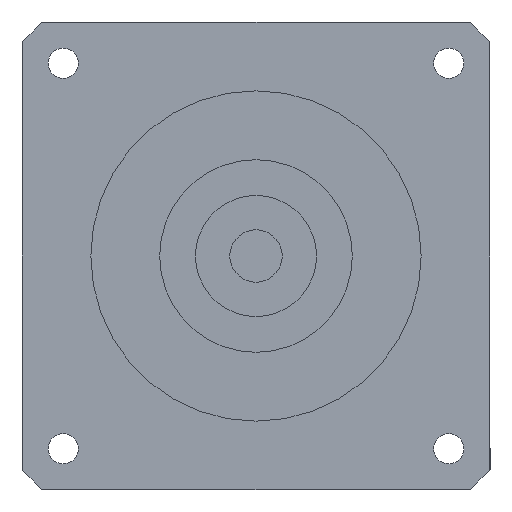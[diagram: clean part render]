
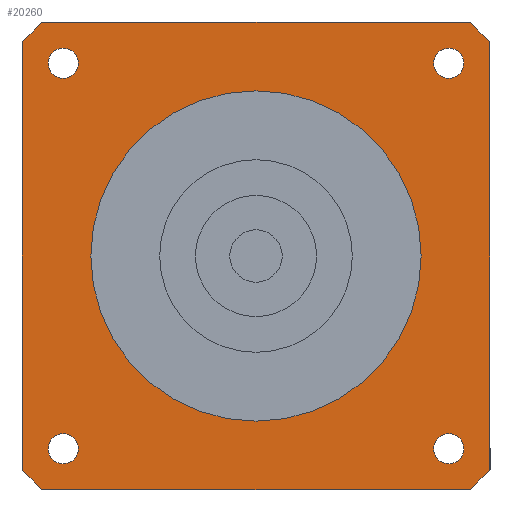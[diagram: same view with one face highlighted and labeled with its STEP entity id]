
A CAD part, left-side view. The second image highlights one B-rep face of the part: STEP entity #20260.
In plain terms, the highlighted planar face has unit normal (-1, 0, 0) as drawn and (0, 0, -1) by its records, which use the part's own axes.
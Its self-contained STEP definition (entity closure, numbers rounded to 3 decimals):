
#11110=CARTESIAN_POINT('',(-42.5,-38.73,-59.));
#11120=VERTEX_POINT('',#11110);
#11280=CARTESIAN_POINT('',(-38.73,-42.5,-59.));
#11290=VERTEX_POINT('',#11280);
#11320=CARTESIAN_POINT('',(0.,0.,
-59.));
#11330=DIRECTION('',(0.,0.,1.));
#11340=DIRECTION('',(0.,-1.,0.));
#11350=AXIS2_PLACEMENT_3D('',#11320,#11330,#11340);
#11360=CIRCLE('',#11350,57.5);
#11370=EDGE_CURVE('',#11120,#11290,#11360,.T.);
#12870=CARTESIAN_POINT('',(-42.5,38.73,-59.));
#12880=VERTEX_POINT('',#12870);
#12980=CARTESIAN_POINT('',(-42.5,42.5,-59.));
#12990=DIRECTION('',(0.,-1.,0.));
#13000=VECTOR('',#12990,1000.);
#13010=LINE('',#12980,#13000);
#13020=EDGE_CURVE('',#12880,#11120,#13010,.T.);
#17850=CARTESIAN_POINT('',(-38.73,42.5,-59.));
#17860=VERTEX_POINT('',#17850);
#17910=CARTESIAN_POINT('',(0.,0.,
-59.));
#17920=DIRECTION('',(0.,0.,1.));
#17930=DIRECTION('',(0.,-1.,0.));
#17940=AXIS2_PLACEMENT_3D('',#17910,#17920,#17930);
#17950=CIRCLE('',#17940,57.5);
#17960=EDGE_CURVE('',#17860,#12880,#17950,.T.);
#18100=CARTESIAN_POINT('',(38.73,42.5,-59.));
#18110=VERTEX_POINT('',#18100);
#18160=CARTESIAN_POINT('',(42.5,42.5,-59.));
#18170=DIRECTION('',(-1.,0.,0.));
#18180=VECTOR('',#18170,1000.);
#18190=LINE('',#18160,#18180);
#18200=EDGE_CURVE('',#18110,#17860,#18190,.T.);
#18310=CARTESIAN_POINT('',(0.,0.,
-59.));
#18320=DIRECTION('',(0.,0.,1.));
#18330=DIRECTION('',(0.,-1.,0.));
#18340=AXIS2_PLACEMENT_3D('',#18310,#18320,#18330);
#18350=CIRCLE('',#18340,57.5);
#18360=CARTESIAN_POINT('',(42.5,38.73,-59.));
#18370=VERTEX_POINT('',#18360);
#18380=EDGE_CURVE('',#18370,#18110,#18350,.T.);
#18590=CARTESIAN_POINT('',(42.5,-38.73,-59.));
#18600=VERTEX_POINT('',#18590);
#18650=CARTESIAN_POINT('',(42.5,-42.5,-59.));
#18660=DIRECTION('',(0.,1.,0.));
#18670=VECTOR('',#18660,1000.);
#18680=LINE('',#18650,#18670);
#18690=EDGE_CURVE('',#18600,#18370,#18680,.T.);
#18830=CARTESIAN_POINT('',(38.73,-42.5,-59.));
#18840=VERTEX_POINT('',#18830);
#18890=CARTESIAN_POINT('',(0.,0.,
-59.));
#18900=DIRECTION('',(0.,0.,1.));
#18910=DIRECTION('',(0.,-1.,0.));
#18920=AXIS2_PLACEMENT_3D('',#18890,#18900,#18910);
#18930=CIRCLE('',#18920,57.5);
#18940=EDGE_CURVE('',#18840,#18600,#18930,.T.);
#19070=CARTESIAN_POINT('',(-42.5,-42.5,-59.));
#19080=DIRECTION('',(1.,0.,0.));
#19090=VECTOR('',#19080,1000.);
#19100=LINE('',#19070,#19090);
#19110=EDGE_CURVE('',#11290,#18840,#19100,.T.);
#19160=CARTESIAN_POINT('',(-42.5,42.5,-59.));
#19170=DIRECTION('',(0.,0.,1.));
#19180=DIRECTION('',(-1.,0.,0.));
#19190=AXIS2_PLACEMENT_3D('',#19160,#19170,#19180);
#19200=PLANE('',#19190);
#19210=CARTESIAN_POINT('',(35.002,-35.002,-59.));
#19220=DIRECTION('',(0.,0.,-1.));
#19230=DIRECTION('',(1.,0.,0.));
#19240=AXIS2_PLACEMENT_3D('',#19210,#19220,#19230);
#19250=CIRCLE('',#19240,2.75);
#19260=CARTESIAN_POINT('',(37.752,-35.002,-59.));
#19270=VERTEX_POINT('',#19260);
#19280=CARTESIAN_POINT('',(35.002,-37.752,-59.));
#19290=VERTEX_POINT('',#19280);
#19300=EDGE_CURVE('',#19270,#19290,#19250,.T.);
#19310=ORIENTED_EDGE('',*,*,#19300,.F.);
#19320=CARTESIAN_POINT('',(35.002,-32.252,-59.));
#19330=VERTEX_POINT('',#19320);
#19340=EDGE_CURVE('',#19290,#19330,#19250,.T.);
#19350=ORIENTED_EDGE('',*,*,#19340,.F.);
#19360=EDGE_CURVE('',#19330,#19270,#19250,.T.);
#19370=ORIENTED_EDGE('',*,*,#19360,.F.);
#19380=EDGE_LOOP('',(#19370,#19350,#19310));
#19390=FACE_BOUND('',#19380,.T.);
#19400=CARTESIAN_POINT('',(35.002,35.002,-59.));
#19410=DIRECTION('',(0.,0.,-1.));
#19420=DIRECTION('',(0.,1.,0.));
#19430=AXIS2_PLACEMENT_3D('',#19400,#19410,#19420);
#19440=CIRCLE('',#19430,2.75);
#19450=CARTESIAN_POINT('',(35.002,37.752,-59.));
#19460=VERTEX_POINT('',#19450);
#19470=CARTESIAN_POINT('',(37.752,35.002,-59.));
#19480=VERTEX_POINT('',#19470);
#19490=EDGE_CURVE('',#19460,#19480,#19440,.T.);
#19500=ORIENTED_EDGE('',*,*,#19490,.F.);
#19510=CARTESIAN_POINT('',(32.252,35.002,-59.));
#19520=VERTEX_POINT('',#19510);
#19530=EDGE_CURVE('',#19480,#19520,#19440,.T.);
#19540=ORIENTED_EDGE('',*,*,#19530,.F.);
#19550=EDGE_CURVE('',#19520,#19460,#19440,.T.);
#19560=ORIENTED_EDGE('',*,*,#19550,.F.);
#19570=EDGE_LOOP('',(#19560,#19540,#19500));
#19580=FACE_BOUND('',#19570,.T.);
#19590=CARTESIAN_POINT('',(-35.002,35.002,-59.));
#19600=DIRECTION('',(0.,0.,-1.));
#19610=DIRECTION('',(-1.,0.,0.));
#19620=AXIS2_PLACEMENT_3D('',#19590,#19600,#19610);
#19630=CIRCLE('',#19620,2.75);
#19640=CARTESIAN_POINT('',(-37.752,35.002,-59.));
#19650=VERTEX_POINT('',#19640);
#19660=CARTESIAN_POINT('',(-35.002,37.752,-59.));
#19670=VERTEX_POINT('',#19660);
#19680=EDGE_CURVE('',#19650,#19670,#19630,.T.);
#19690=ORIENTED_EDGE('',*,*,#19680,.F.);
#19700=CARTESIAN_POINT('',(-35.002,32.252,-59.));
#19710=VERTEX_POINT('',#19700);
#19720=EDGE_CURVE('',#19670,#19710,#19630,.T.);
#19730=ORIENTED_EDGE('',*,*,#19720,.F.);
#19740=EDGE_CURVE('',#19710,#19650,#19630,.T.);
#19750=ORIENTED_EDGE('',*,*,#19740,.F.);
#19760=EDGE_LOOP('',(#19750,#19730,#19690));
#19770=FACE_BOUND('',#19760,.T.);
#19780=CARTESIAN_POINT('',(-35.002,-35.002,-59.));
#19790=DIRECTION('',(0.,0.,-1.));
#19800=DIRECTION('',(0.,-1.,0.));
#19810=AXIS2_PLACEMENT_3D('',#19780,#19790,#19800);
#19820=CIRCLE('',#19810,2.75);
#19830=CARTESIAN_POINT('',(-35.002,-37.752,-59.));
#19840=VERTEX_POINT('',#19830);
#19850=CARTESIAN_POINT('',(-37.752,-35.002,-59.));
#19860=VERTEX_POINT('',#19850);
#19870=EDGE_CURVE('',#19840,#19860,#19820,.T.);
#19880=ORIENTED_EDGE('',*,*,#19870,.F.);
#19890=CARTESIAN_POINT('',(-32.252,-35.002,-59.));
#19900=VERTEX_POINT('',#19890);
#19910=EDGE_CURVE('',#19860,#19900,#19820,.T.);
#19920=ORIENTED_EDGE('',*,*,#19910,.F.);
#19930=EDGE_CURVE('',#19900,#19840,#19820,.T.);
#19940=ORIENTED_EDGE('',*,*,#19930,.F.);
#19950=EDGE_LOOP('',(#19940,#19920,#19880));
#19960=FACE_BOUND('',#19950,.T.);
#19970=ORIENTED_EDGE('',*,*,#11370,.F.);
#19980=ORIENTED_EDGE('',*,*,#19110,.F.);
#19990=ORIENTED_EDGE('',*,*,#18940,.F.);
#20000=ORIENTED_EDGE('',*,*,#18690,.F.);
#20010=ORIENTED_EDGE('',*,*,#18380,.F.);
#20020=ORIENTED_EDGE('',*,*,#18200,.F.);
#20030=ORIENTED_EDGE('',*,*,#17960,.F.);
#20040=ORIENTED_EDGE('',*,*,#13020,.F.);
#20050=EDGE_LOOP('',(#20040,#20030,#20020,#20010,#20000,#19990,#19980,
#19970));
#20060=FACE_OUTER_BOUND('',#20050,.T.);
#20070=CARTESIAN_POINT('',(0.,0.,
-59.));
#20080=DIRECTION('',(0.,0.,1.));
#20090=DIRECTION('',(0.,-1.,0.));
#20100=AXIS2_PLACEMENT_3D('',#20070,#20080,#20090);
#20110=CIRCLE('',#20100,30.);
#20120=CARTESIAN_POINT('',(30.,0.,-59.));
#20130=VERTEX_POINT('',#20120);
#20140=CARTESIAN_POINT('',(-30.,0.,-59.));
#20150=VERTEX_POINT('',#20140);
#20160=EDGE_CURVE('',#20130,#20150,#20110,.T.);
#20170=ORIENTED_EDGE('',*,*,#20160,.T.);
#20180=CARTESIAN_POINT('',(0.,-30.,-59.));
#20190=VERTEX_POINT('',#20180);
#20200=EDGE_CURVE('',#20190,#20130,#20110,.T.);
#20210=ORIENTED_EDGE('',*,*,#20200,.T.);
#20220=EDGE_CURVE('',#20150,#20190,#20110,.T.);
#20230=ORIENTED_EDGE('',*,*,#20220,.T.);
#20240=EDGE_LOOP('',(#20230,#20210,#20170));
#20250=FACE_BOUND('',#20240,.T.);
#20260=ADVANCED_FACE('',(#19390,#19580,#19770,#19960,#20060,#20250),
#19200,.F.);
